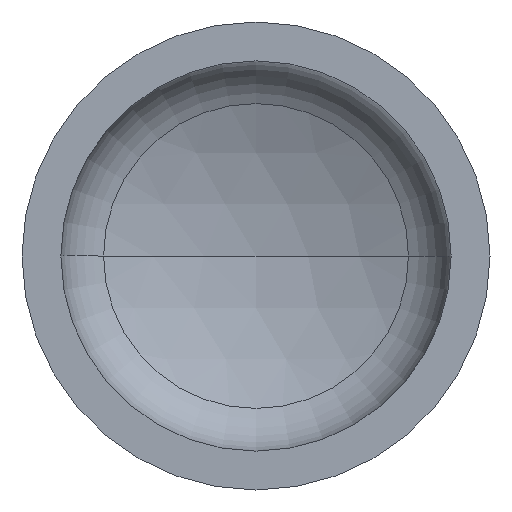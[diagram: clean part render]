
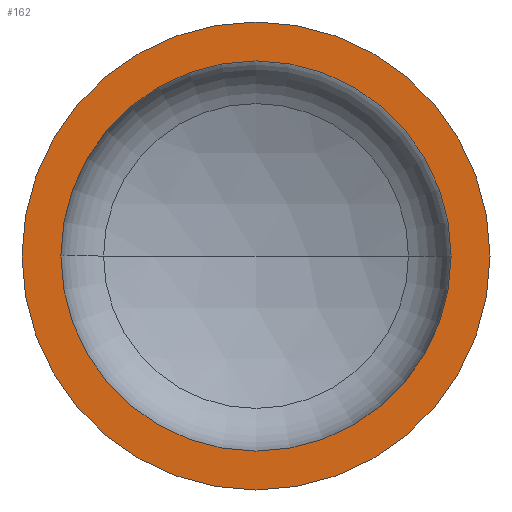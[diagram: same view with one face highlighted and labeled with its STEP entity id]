
A CAD part, front view. The second image highlights one B-rep face of the part: STEP entity #162.
In plain terms, the highlighted planar face has unit normal (0, -1, 0).
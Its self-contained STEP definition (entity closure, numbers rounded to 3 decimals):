
#4 = AXIS2_PLACEMENT_3D ( 'NONE', #189, #388, #389 ) ;
#15 = AXIS2_PLACEMENT_3D ( 'NONE', #324, #237, #150 ) ;
#28 = AXIS2_PLACEMENT_3D ( 'NONE', #149, #188, #183 ) ;
#50 = AXIS2_PLACEMENT_3D ( 'NONE', #354, #353, #122 ) ;
#52 = AXIS2_PLACEMENT_3D ( 'NONE', #175, #350, #345 ) ;
#68 = EDGE_CURVE ( 'NONE', #251, #360, #80, .T. ) ;
#69 = EDGE_CURVE ( 'NONE', #276, #270, #320, .T. ) ;
#80 = CIRCLE ( 'NONE', #52, 650. ) ;
#117 = ORIENTED_EDGE ( 'NONE', *, *, #334, .F. ) ;
#122 = DIRECTION ( 'NONE',  ( 1., 0., 0. ) ) ;
#131 = FACE_BOUND ( 'NONE', #220, .T. ) ;
#145 = CARTESIAN_POINT ( 'NONE',  ( -542., 0., 0. ) ) ;
#146 = CARTESIAN_POINT ( 'NONE',  ( -650., 0., 0. ) ) ;
#149 = CARTESIAN_POINT ( 'NONE',  ( -650., 0., 0. ) ) ;
#150 = DIRECTION ( 'NONE',  ( 1., 0., 0. ) ) ;
#162 = ADVANCED_FACE ( 'NONE', ( #131, #205 ), #208, .F. ) ;
#172 = ORIENTED_EDGE ( 'NONE', *, *, #68, .T. ) ;
#175 = CARTESIAN_POINT ( 'NONE',  ( 0., 0., 0. ) ) ;
#183 = DIRECTION ( 'NONE',  ( -1., 0., 0. ) ) ;
#186 = EDGE_LOOP ( 'NONE', ( #216, #172 ) ) ;
#188 = DIRECTION ( 'NONE',  ( 0., 1., 0. ) ) ;
#189 = CARTESIAN_POINT ( 'NONE',  ( 0., 0., 0. ) ) ;
#205 = FACE_OUTER_BOUND ( 'NONE', #186, .T. ) ;
#208 = PLANE ( 'NONE',  #28 ) ;
#216 = ORIENTED_EDGE ( 'NONE', *, *, #371, .T. ) ;
#220 = EDGE_LOOP ( 'NONE', ( #314, #117 ) ) ;
#237 = DIRECTION ( 'NONE',  ( 0., -1., 0. ) ) ;
#251 = VERTEX_POINT ( 'NONE', #146 ) ;
#252 = CIRCLE ( 'NONE', #15, 542. ) ;
#270 = VERTEX_POINT ( 'NONE', #145 ) ;
#276 = VERTEX_POINT ( 'NONE', #405 ) ;
#314 = ORIENTED_EDGE ( 'NONE', *, *, #69, .F. ) ;
#320 = CIRCLE ( 'NONE', #50, 542. ) ;
#324 = CARTESIAN_POINT ( 'NONE',  ( 0., 0., 0. ) ) ;
#334 = EDGE_CURVE ( 'NONE', #270, #276, #252, .T. ) ;
#336 = CARTESIAN_POINT ( 'NONE',  ( 650., 0., 0. ) ) ;
#345 = DIRECTION ( 'NONE',  ( 1., 0., 0. ) ) ;
#350 = DIRECTION ( 'NONE',  ( 0., -1., 0. ) ) ;
#353 = DIRECTION ( 'NONE',  ( 0., -1., 0. ) ) ;
#354 = CARTESIAN_POINT ( 'NONE',  ( 0., 0., 0. ) ) ;
#360 = VERTEX_POINT ( 'NONE', #336 ) ;
#371 = EDGE_CURVE ( 'NONE', #360, #251, #392, .T. ) ;
#388 = DIRECTION ( 'NONE',  ( 0., -1., 0. ) ) ;
#389 = DIRECTION ( 'NONE',  ( 1., 0., 0. ) ) ;
#392 = CIRCLE ( 'NONE', #4, 650. ) ;
#405 = CARTESIAN_POINT ( 'NONE',  ( 542., 0., 0. ) ) ;
